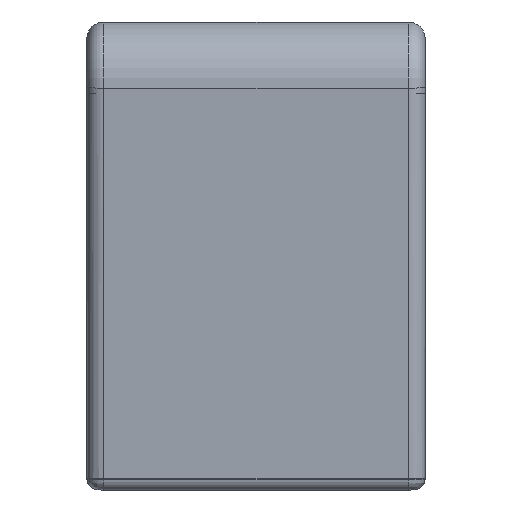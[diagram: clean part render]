
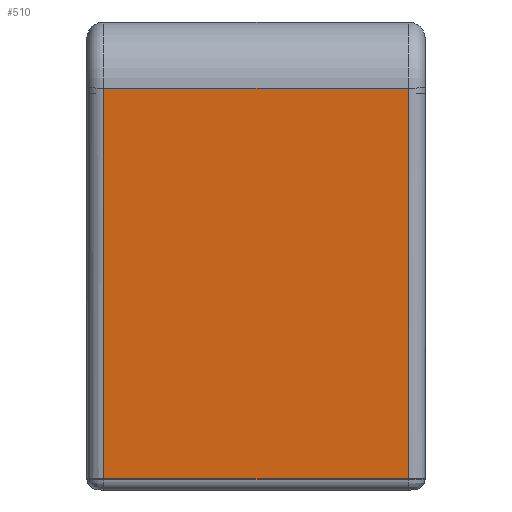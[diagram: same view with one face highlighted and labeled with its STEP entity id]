
A CAD part, left-side view. The second image highlights one B-rep face of the part: STEP entity #510.
In plain terms, the highlighted planar face has unit normal (-0.998, 0, -0.067).
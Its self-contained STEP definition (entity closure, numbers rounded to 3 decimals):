
#242 = EDGE_CURVE ( 'NONE', #4028, #3963, #1205, .T. ) ;
#243 = EDGE_CURVE ( 'NONE', #3963, #4047, #5129, .T. ) ;
#244 = EDGE_CURVE ( 'NONE', #4047, #4048, #5127, .T. ) ;
#245 = EDGE_CURVE ( 'NONE', #4028, #4048, #5125, .T. ) ;
#510 = ADVANCED_FACE ( 'NONE', ( #3707 ), #2434, .T. ) ;
#1205 = LINE ( 'NONE', #4420, #5130 ) ;
#1363 = ORIENTED_EDGE ( 'NONE', *, *, #242, .T. ) ;
#1364 = ORIENTED_EDGE ( 'NONE', *, *, #243, .T. ) ;
#1365 = ORIENTED_EDGE ( 'NONE', *, *, #244, .T. ) ;
#1366 = ORIENTED_EDGE ( 'NONE', *, *, #245, .F. ) ;
#1504 = EDGE_LOOP ( 'NONE', ( #1363, #1364, #1365, #1366 ) ) ;
#1832 = CARTESIAN_POINT ( 'NONE',  ( -368.063, 13.5, -6.067 ) ) ;
#1897 = CARTESIAN_POINT ( 'NONE',  ( -370.388, 13.5, 28.632 ) ) ;
#1916 = CARTESIAN_POINT ( 'NONE',  ( -368.063, -13.5, -6.067 ) ) ;
#1917 = CARTESIAN_POINT ( 'NONE',  ( -370.388, -13.5, 28.632 ) ) ;
#2434 = PLANE ( 'NONE',  #3562 ) ;
#2435 = CARTESIAN_POINT ( 'NONE',  ( -368., 15., -7. ) ) ;
#2436 = DIRECTION ( 'NONE',  ( -0.998, 0., -0.067 ) ) ;
#2437 = DIRECTION ( 'NONE',  ( -0.067, 0., 0.998 ) ) ;
#3562 = AXIS2_PLACEMENT_3D ( 'NONE', #2435, #2436, #2437 ) ;
#3707 = FACE_OUTER_BOUND ( 'NONE', #1504, .T. ) ;
#3963 = VERTEX_POINT ( 'NONE', #1832 ) ;
#4028 = VERTEX_POINT ( 'NONE', #1897 ) ;
#4047 = VERTEX_POINT ( 'NONE', #1916 ) ;
#4048 = VERTEX_POINT ( 'NONE', #1917 ) ;
#4420 = CARTESIAN_POINT ( 'NONE',  ( -368., 13.5, -7. ) ) ;
#4421 = DIRECTION ( 'NONE',  ( 0.067, 0., -0.998 ) ) ;
#4422 = CARTESIAN_POINT ( 'NONE',  ( -368.063, 15., -6.067 ) ) ;
#4423 = DIRECTION ( 'NONE',  ( 0., -1., 0. ) ) ;
#4424 = CARTESIAN_POINT ( 'NONE',  ( -370.388, -13.5, 28.632 ) ) ;
#4425 = DIRECTION ( 'NONE',  ( -0.067, 0., 0.998 ) ) ;
#4426 = CARTESIAN_POINT ( 'NONE',  ( -370.388, 15., 28.632 ) ) ;
#4427 = DIRECTION ( 'NONE',  ( 0., -1., 0. ) ) ;
#5124 = VECTOR ( 'NONE', #4427, 1000. ) ;
#5125 = LINE ( 'NONE', #4426, #5124 ) ;
#5126 = VECTOR ( 'NONE', #4425, 1000. ) ;
#5127 = LINE ( 'NONE', #4424, #5126 ) ;
#5128 = VECTOR ( 'NONE', #4423, 1000. ) ;
#5129 = LINE ( 'NONE', #4422, #5128 ) ;
#5130 = VECTOR ( 'NONE', #4421, 1000. ) ;
